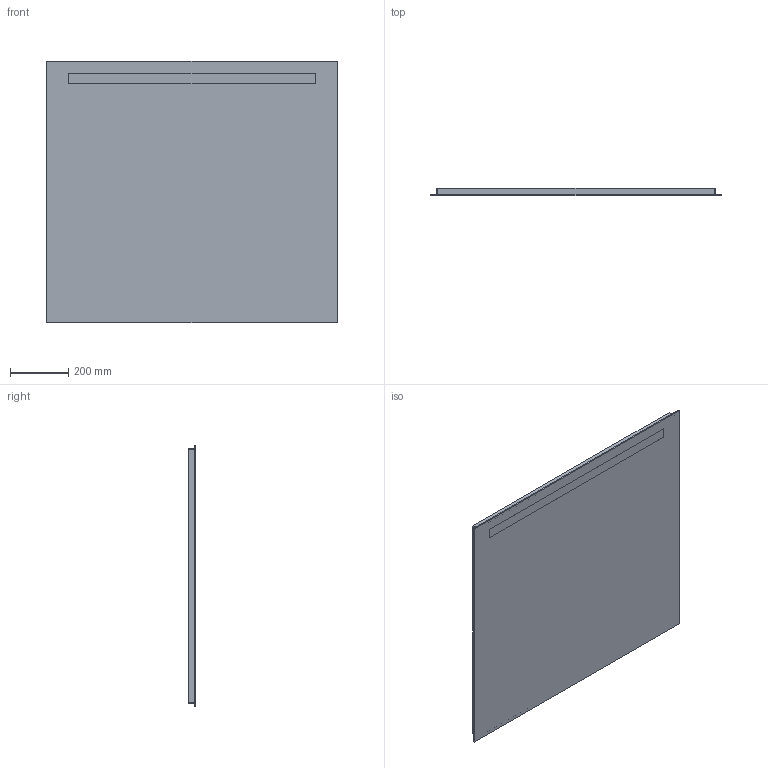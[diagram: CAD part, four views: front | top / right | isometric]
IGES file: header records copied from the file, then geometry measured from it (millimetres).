
Global section: file name: 502814; native system: Autodesk Inventor 2021; preprocessor: unknown; author: JANAN; date: 20221202.151617; units: millimetre
Bounding box: 1000 x 26 x 900 mm (x, y, z)
Volume: 22180443.9 mm3; surface area: 3586813.9 mm2
Topology: 2 solids, 2 shells, 29 faces, 68 edges, 48 vertices
Faces by surface type: bspline 29
